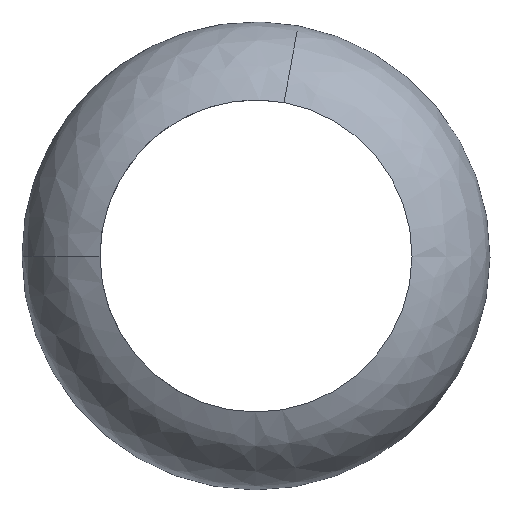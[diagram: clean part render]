
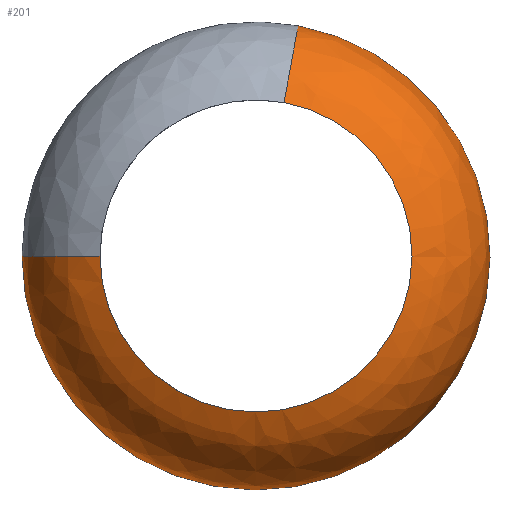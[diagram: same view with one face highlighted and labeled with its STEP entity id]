
A CAD part, left-side view. The second image highlights one B-rep face of the part: STEP entity #201.
In plain terms, the highlighted free-form (B-spline) face has degree [2, 2] with [3, 9] control points.
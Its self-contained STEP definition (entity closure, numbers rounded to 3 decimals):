
#81=CARTESIAN_POINT('',(-60.585,-1.079,61.188));
#82=VERTEX_POINT('',#81);
#89=CARTESIAN_POINT('',(-60.585,1.079,49.384));
#90=VERTEX_POINT('',#89);
#91=CARTESIAN_POINT('',(-60.585,0.,55.286));
#92=DIRECTION('',(0.,0.18,-0.984));
#93=DIRECTION('',(-1.,0.,0.));
#94=AXIS2_PLACEMENT_3D('',#91,#93,#92);
#95=CIRCLE('',#94,6.);
#96=EDGE_CURVE('',#90,#82,#95,.T.);
#115=CARTESIAN_POINT('',(-60.585,6.,55.286));
#116=VERTEX_POINT('',#115);
#117=CARTESIAN_POINT('',(-60.585,0.,55.286));
#118=DIRECTION('',(0.,0.18,-0.984));
#119=DIRECTION('',(1.,0.,0.));
#120=AXIS2_PLACEMENT_3D('',#117,#119,#118);
#121=CIRCLE('',#120,6.);
#122=EDGE_CURVE('',#90,#116,#121,.T.);
#135=CARTESIAN_POINT('',(-60.585,6.,55.286));
#136=CARTESIAN_POINT('',(-60.585,6.,61.286));
#137=CARTESIAN_POINT('',(-60.585,0.,61.286));
#138=CARTESIAN_POINT('',(-60.585,-6.,61.286));
#139=CARTESIAN_POINT('',(-60.585,-6.,55.286));
#140=CARTESIAN_POINT('',(-60.585,-6.,49.286));
#141=CARTESIAN_POINT('',(-60.585,0.,49.286));
#142=CARTESIAN_POINT('',(-60.585,6.,49.286));
#143=CARTESIAN_POINT('',(-60.585,6.,55.286));
#144=CARTESIAN_POINT('',(-62.707,6.,55.286));
#145=CARTESIAN_POINT('',(-62.707,6.,61.286));
#146=CARTESIAN_POINT('',(-62.707,0.,61.286));
#147=CARTESIAN_POINT('',(-62.707,-6.,61.286));
#148=CARTESIAN_POINT('',(-62.707,-6.,55.286));
#149=CARTESIAN_POINT('',(-62.707,-6.,49.286));
#150=CARTESIAN_POINT('',(-62.707,0.,49.286));
#151=CARTESIAN_POINT('',(-62.707,6.,49.286));
#152=CARTESIAN_POINT('',(-62.707,6.,55.286));
#153=CARTESIAN_POINT('',(-63.414,4.,55.286));
#154=CARTESIAN_POINT('',(-63.414,4.,59.286));
#155=CARTESIAN_POINT('',(-63.414,0.,59.286));
#156=CARTESIAN_POINT('',(-63.414,-4.,59.286));
#157=CARTESIAN_POINT('',(-63.414,-4.,55.286));
#158=CARTESIAN_POINT('',(-63.414,-4.,51.286));
#159=CARTESIAN_POINT('',(-63.414,0.,51.286));
#160=CARTESIAN_POINT('',(-63.414,4.,51.286));
#161=CARTESIAN_POINT('',(-63.414,4.,55.286));
#162=(BOUNDED_SURFACE()B_SPLINE_SURFACE(2,2,((#135,#136,#137,#138,#139,#140,#141,#142,#143),(#144,#145,#146,#147,#148,#149,#150,#151,#152),(#153,#154,#155,#156,#157,#158,#159,#160,#161)),.UNSPECIFIED.,.F.,.T.,.U.)B_SPLINE_SURFACE_WITH_KNOTS((3,3),(3,2,2,2,3),(0.,0.193),(0.,0.25,0.5,0.75,1.),.UNSPECIFIED.)GEOMETRIC_REPRESENTATION_ITEM()RATIONAL_B_SPLINE_SURFACE(((1.,0.707,1.,0.707,1.,0.707,1.,0.707,1.),(0.71,0.502,0.71,0.502,0.71,0.502,0.71,0.502,0.71),(0.756,0.535,0.756,0.535,0.756,0.535,0.756,0.535,0.756)))REPRESENTATION_ITEM('')SURFACE());
#163=CARTESIAN_POINT('',(-63.414,-0.719,59.221));
#164=VERTEX_POINT('',#163);
#165=CARTESIAN_POINT('',(-60.585,-0.539,58.237));
#166=DIRECTION('',(0.,-0.18,0.984));
#167=DIRECTION('',(0.,-0.984,-0.18));
#168=AXIS2_PLACEMENT_3D('',#165,#167,#166);
#169=CIRCLE('',#168,3.);
#170=EDGE_CURVE('',#82,#164,#169,.T.);
#171=ORIENTED_EDGE('E6',*,*,#170,.T.);
#172=CARTESIAN_POINT('',(-63.414,0.719,51.351));
#173=VERTEX_POINT('',#172);
#174=CARTESIAN_POINT('',(-63.414,0.,55.286));
#175=DIRECTION('',(0.,-0.18,0.984));
#176=DIRECTION('',(1.,0.,0.));
#177=AXIS2_PLACEMENT_3D('',#174,#176,#175);
#178=CIRCLE('',#177,4.);
#179=EDGE_CURVE('',#164,#173,#178,.T.);
#180=ORIENTED_EDGE('E7',*,*,#179,.T.);
#181=CARTESIAN_POINT('',(-63.414,4.,55.286));
#182=VERTEX_POINT('',#181);
#183=CARTESIAN_POINT('',(-63.414,0.,55.286));
#184=DIRECTION('',(0.,1.,0.));
#185=DIRECTION('',(-1.,0.,0.));
#186=AXIS2_PLACEMENT_3D('',#183,#185,#184);
#187=CIRCLE('',#186,4.);
#188=EDGE_CURVE('',#182,#173,#187,.T.);
#189=ORIENTED_EDGE('E16',*,*,#188,.F.);
#190=CARTESIAN_POINT('',(-60.585,3.,55.286));
#191=DIRECTION('',(-0.943,0.333,0.));
#192=DIRECTION('',(0.,0.,-1.));
#193=AXIS2_PLACEMENT_3D('',#190,#192,#191);
#194=CIRCLE('',#193,3.);
#195=EDGE_CURVE('',#182,#116,#194,.T.);
#196=ORIENTED_EDGE('E8',*,*,#195,.T.);
#197=ORIENTED_EDGE('E8',*,*,#122,.F.);
#198=ORIENTED_EDGE('E8',*,*,#96,.T.);
#199=EDGE_LOOP('',(#171,#180,#189,#196,#197,#198));
#200=FACE_OUTER_BOUND('',#199,.T.);
#201=ADVANCED_FACE('F4',(#200),#162,.T.);
